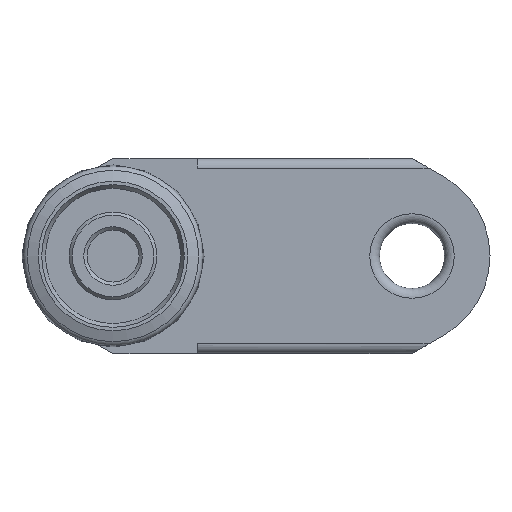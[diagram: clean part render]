
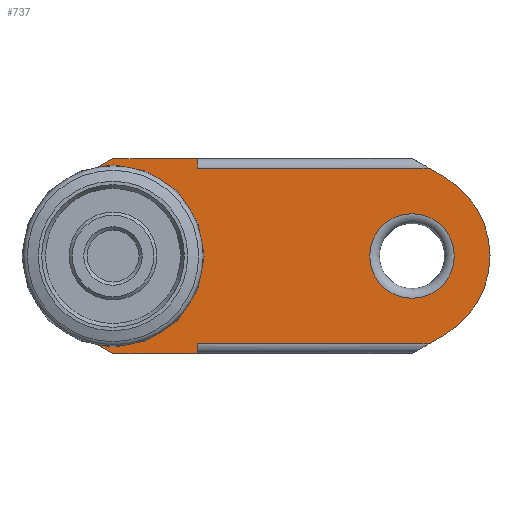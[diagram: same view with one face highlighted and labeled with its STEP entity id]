
A CAD part, left-side view. The second image highlights one B-rep face of the part: STEP entity #737.
In plain terms, the highlighted planar face has unit normal (-1, 0, 0) as drawn and (0, 0, -1) by its records, which use the part's own axes.
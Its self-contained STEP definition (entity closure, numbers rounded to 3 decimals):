
#45=LINE('',#1199,#81);
#48=LINE('',#1206,#84);
#50=LINE('',#1215,#86);
#51=LINE('',#1218,#87);
#60=LINE('',#1242,#96);
#62=LINE('',#1246,#98);
#63=LINE('',#1249,#99);
#64=LINE('',#1251,#100);
#65=LINE('',#1253,#101);
#66=LINE('',#1256,#102);
#81=VECTOR('',#956,35.617);
#84=VECTOR('',#963,1.5);
#86=VECTOR('',#971,35.617);
#87=VECTOR('',#974,1.5);
#96=VECTOR('',#995,13.019);
#98=VECTOR('',#999,2.751);
#99=VECTOR('',#1002,2.751);
#100=VECTOR('',#1003,13.019);
#101=VECTOR('',#1004,5.751);
#102=VECTOR('',#1007,5.751);
#149=PLANE('',#817);
#177=FACE_BOUND('',#284,.T.);
#178=FACE_BOUND('',#285,.T.);
#221=FACE_OUTER_BOUND('',#283,.T.);
#283=EDGE_LOOP('',(#603,#604,#605,#606,#607,#608,#609,#610,#611,#612,#613,
#614));
#284=EDGE_LOOP('',(#615));
#285=EDGE_LOOP('',(#616));
#354=CIRCLE('',#818,14.);
#355=CIRCLE('',#819,14.);
#356=CIRCLE('',#820,6.5);
#357=CIRCLE('',#821,4.05);
#400=VERTEX_POINT('',#1195);
#402=VERTEX_POINT('',#1198);
#404=VERTEX_POINT('',#1204);
#406=VERTEX_POINT('',#1209);
#408=VERTEX_POINT('',#1213);
#409=VERTEX_POINT('',#1217);
#418=VERTEX_POINT('',#1241);
#419=VERTEX_POINT('',#1245);
#420=VERTEX_POINT('',#1247);
#421=VERTEX_POINT('',#1250);
#422=VERTEX_POINT('',#1252);
#423=VERTEX_POINT('',#1254);
#424=VERTEX_POINT('',#1257);
#425=VERTEX_POINT('',#1259);
#471=EDGE_CURVE('',#402,#400,#45,.T.);
#475=EDGE_CURVE('',#404,#402,#48,.T.);
#479=EDGE_CURVE('',#408,#406,#50,.T.);
#480=EDGE_CURVE('',#408,#409,#51,.T.);
#493=EDGE_CURVE('',#418,#404,#60,.T.);
#495=EDGE_CURVE('',#400,#419,#62,.T.);
#496=EDGE_CURVE('',#419,#420,#354,.T.);
#497=EDGE_CURVE('',#420,#406,#63,.T.);
#498=EDGE_CURVE('',#409,#421,#64,.T.);
#499=EDGE_CURVE('',#421,#422,#65,.T.);
#500=EDGE_CURVE('',#422,#423,#355,.T.);
#501=EDGE_CURVE('',#423,#418,#66,.T.);
#502=EDGE_CURVE('',#424,#424,#356,.T.);
#503=EDGE_CURVE('',#425,#425,#357,.T.);
#603=ORIENTED_EDGE('',*,*,#475,.T.);
#604=ORIENTED_EDGE('',*,*,#471,.T.);
#605=ORIENTED_EDGE('',*,*,#495,.T.);
#606=ORIENTED_EDGE('',*,*,#496,.T.);
#607=ORIENTED_EDGE('',*,*,#497,.T.);
#608=ORIENTED_EDGE('',*,*,#479,.F.);
#609=ORIENTED_EDGE('',*,*,#480,.T.);
#610=ORIENTED_EDGE('',*,*,#498,.T.);
#611=ORIENTED_EDGE('',*,*,#499,.T.);
#612=ORIENTED_EDGE('',*,*,#500,.T.);
#613=ORIENTED_EDGE('',*,*,#501,.T.);
#614=ORIENTED_EDGE('',*,*,#493,.T.);
#615=ORIENTED_EDGE('',*,*,#502,.F.);
#616=ORIENTED_EDGE('',*,*,#503,.T.);
#737=ADVANCED_FACE('',(#221,#177,#178),#149,.F.);
#817=AXIS2_PLACEMENT_3D('',#1244,#997,#998);
#818=AXIS2_PLACEMENT_3D('',#1248,#1000,#1001);
#819=AXIS2_PLACEMENT_3D('',#1255,#1005,#1006);
#820=AXIS2_PLACEMENT_3D('',#1258,#1008,#1009);
#821=AXIS2_PLACEMENT_3D('',#1260,#1010,#1011);
#956=DIRECTION('',(0.,-1.,0.));
#963=DIRECTION('',(-1.,0.,0.));
#971=DIRECTION('',(0.,-1.,0.));
#974=DIRECTION('',(-1.,0.,0.));
#995=DIRECTION('',(0.,-1.,0.));
#997=DIRECTION('center_axis',(0.,0.,1.));
#998=DIRECTION('ref_axis',(1.,0.,0.));
#999=DIRECTION('',(-0.5,-0.866,0.));
#1000=DIRECTION('center_axis',(0.,0.,-1.));
#1001=DIRECTION('ref_axis',(0.866,0.5,0.));
#1002=DIRECTION('',(-0.5,0.866,0.));
#1003=DIRECTION('',(0.,1.,0.));
#1004=DIRECTION('',(0.5,0.866,0.));
#1005=DIRECTION('center_axis',(0.,0.,-1.));
#1006=DIRECTION('ref_axis',(-0.866,-0.5,0.));
#1007=DIRECTION('',(0.5,-0.866,0.));
#1008=DIRECTION('center_axis',(0.,0.,-1.));
#1009=DIRECTION('ref_axis',(1.,0.,0.));
#1010=DIRECTION('center_axis',(0.,0.,1.));
#1011=DIRECTION('ref_axis',(1.,0.,0.));
#1195=CARTESIAN_POINT('',(13.5,-48.617,0.));
#1198=CARTESIAN_POINT('',(13.5,-13.,0.));
#1199=CARTESIAN_POINT('',(13.5,-58.,0.));
#1204=CARTESIAN_POINT('',(15.,-13.,0.));
#1206=CARTESIAN_POINT('',(7.271,-13.,0.));
#1209=CARTESIAN_POINT('',(-13.5,-48.617,0.));
#1213=CARTESIAN_POINT('',(-13.5,-13.,0.));
#1215=CARTESIAN_POINT('',(-13.5,-58.,0.));
#1217=CARTESIAN_POINT('',(-15.,-13.,0.));
#1218=CARTESIAN_POINT('',(-7.271,-13.,0.));
#1241=CARTESIAN_POINT('',(15.,0.019,0.));
#1242=CARTESIAN_POINT('',(15.,0.019,0.));
#1244=CARTESIAN_POINT('Origin',(0.,-23.,0.));
#1245=CARTESIAN_POINT('',(12.124,-51.,0.));
#1246=CARTESIAN_POINT('',(15.,-46.019,0.));
#1247=CARTESIAN_POINT('',(-12.124,-51.,0.));
#1248=CARTESIAN_POINT('Origin',(0.,-44.,0.));
#1249=CARTESIAN_POINT('',(-12.124,-51.,0.));
#1250=CARTESIAN_POINT('',(-15.,0.019,0.));
#1251=CARTESIAN_POINT('',(-15.,-46.019,0.));
#1252=CARTESIAN_POINT('',(-12.124,5.,0.));
#1253=CARTESIAN_POINT('',(-15.,0.019,0.));
#1254=CARTESIAN_POINT('',(12.124,5.,0.));
#1255=CARTESIAN_POINT('Origin',(0.,-2.,0.));
#1256=CARTESIAN_POINT('',(12.124,5.,0.));
#1257=CARTESIAN_POINT('',(-6.5,-46.,0.));
#1258=CARTESIAN_POINT('Origin',(0.,-46.,0.));
#1259=CARTESIAN_POINT('',(-4.05,0.,0.));
#1260=CARTESIAN_POINT('Origin',(0.,0.,0.));
